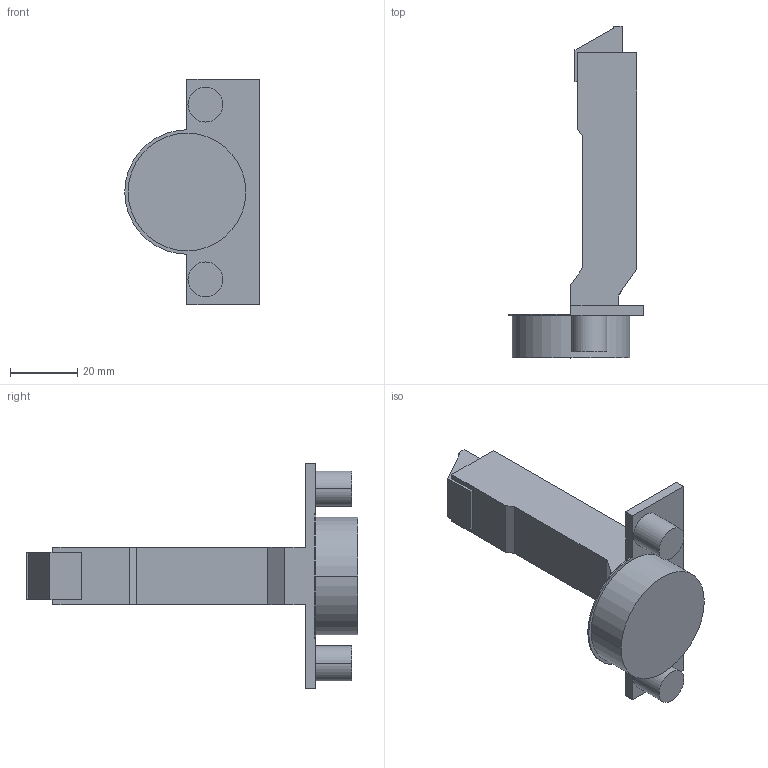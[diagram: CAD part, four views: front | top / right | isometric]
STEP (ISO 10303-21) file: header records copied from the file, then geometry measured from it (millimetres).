
FILE_DESCRIPTION (( 'STEP AP214' ), '1' );
FILE_NAME ('Scharnier T Click-on 95° H_BB, K00_Dübel.step', '2010-12-06T09:50:54', ( 'grass' ), ( '' ), 'SwSTEP 2.0', 'SolidWorks 2010', '' );
FILE_SCHEMA (( 'AUTOMOTIVE_DESIGN' ));
Length unit declared in the file: millimetre
Products named in the file (1): Scharnier T Click-on 95° H_BB, K00_Dübel
Bounding box: 40 x 98.7 x 67 mm (x, y, z)
Volume: 40247.5 mm3; surface area: 12190.6 mm2
Topology: 1 solids, 1 shells, 52 faces, 126 edges, 84 vertices
Faces by surface type: plane 35, cylinder 17
Entity records: 1558 total; most frequent: DIRECTION 266, CARTESIAN_POINT 263, ORIENTED_EDGE 252, EDGE_CURVE 126, LINE 92, VECTOR 92, AXIS2_PLACEMENT_3D 87, VERTEX_POINT 84
